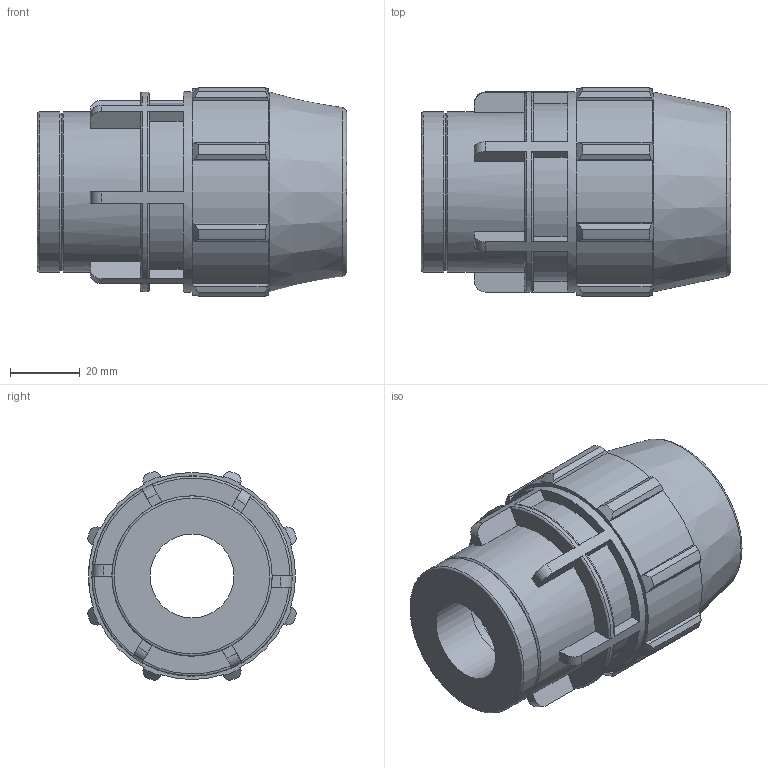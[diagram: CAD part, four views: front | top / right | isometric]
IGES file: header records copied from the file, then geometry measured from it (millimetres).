
Global section: file name: 0703G0032010__0703G60320100A.ipt; native system: Autodesk Inventor 2015; preprocessor: unknown; author: KIM; date: 20170606.133301; units: millimetre
Bounding box: 89 x 60.22 x 60.22 mm (x, y, z)
Volume: 129441.1 mm3; surface area: 30268.5 mm2
Topology: 1 solids, 1 shells, 148 faces, 413 edges, 277 vertices
Faces by surface type: plane 86, revolution 25, cylinder 25, cone 12
Full cylindrical faces by diameter (mm): 46.08 x2, 57.6 x1
